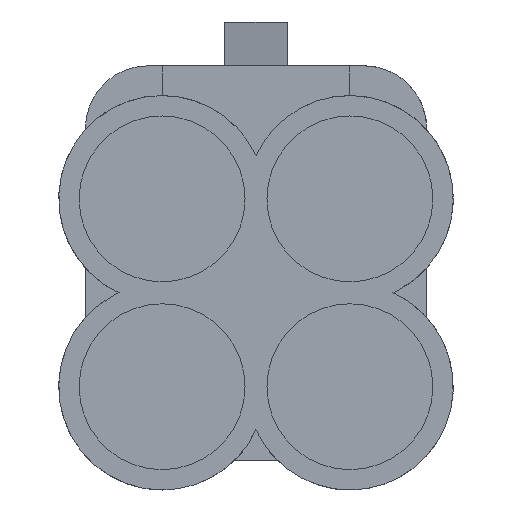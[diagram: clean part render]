
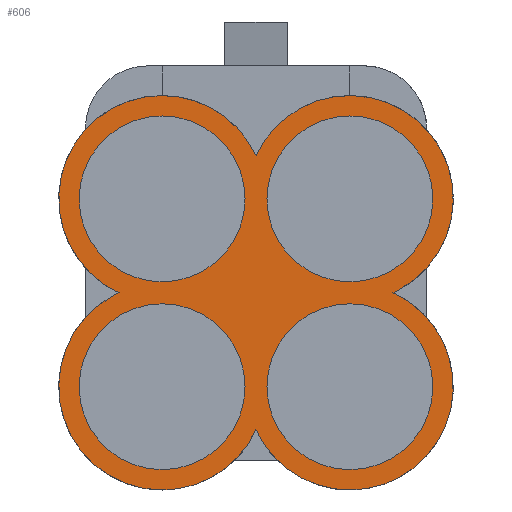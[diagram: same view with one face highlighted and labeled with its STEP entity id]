
A CAD part, left-side view. The second image highlights one B-rep face of the part: STEP entity #606.
In plain terms, the highlighted planar face has unit normal (-1, 0, 0).
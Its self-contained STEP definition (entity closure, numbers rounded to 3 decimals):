
#334=AXIS2_PLACEMENT_3D('Circle Axis2P3D',#332,#333,$) ;
#373=AXIS2_PLACEMENT_3D('Circle Axis2P3D',#371,#372,$) ;
#466=AXIS2_PLACEMENT_3D('Plane Axis2P3D',#463,#464,#465) ;
#470=AXIS2_PLACEMENT_3D('Circle Axis2P3D',#468,#469,$) ;
#479=AXIS2_PLACEMENT_3D('Circle Axis2P3D',#477,#478,$) ;
#486=AXIS2_PLACEMENT_3D('Circle Axis2P3D',#484,#485,$) ;
#493=AXIS2_PLACEMENT_3D('Circle Axis2P3D',#491,#492,$) ;
#500=AXIS2_PLACEMENT_3D('Circle Axis2P3D',#498,#499,$) ;
#507=AXIS2_PLACEMENT_3D('Circle Axis2P3D',#505,#506,$) ;
#512=AXIS2_PLACEMENT_3D('Circle Axis2P3D',#510,#511,$) ;
#519=AXIS2_PLACEMENT_3D('Circle Axis2P3D',#517,#518,$) ;
#536=AXIS2_PLACEMENT_3D('Circle Axis2P3D',#534,#535,$) ;
#545=AXIS2_PLACEMENT_3D('Circle Axis2P3D',#543,#544,$) ;
#554=AXIS2_PLACEMENT_3D('Circle Axis2P3D',#552,#553,$) ;
#563=AXIS2_PLACEMENT_3D('Circle Axis2P3D',#561,#562,$) ;
#572=AXIS2_PLACEMENT_3D('Circle Axis2P3D',#570,#571,$) ;
#581=AXIS2_PLACEMENT_3D('Circle Axis2P3D',#579,#580,$) ;
#590=AXIS2_PLACEMENT_3D('Circle Axis2P3D',#588,#589,$) ;
#599=AXIS2_PLACEMENT_3D('Circle Axis2P3D',#597,#598,$) ;
#332=CARTESIAN_POINT('Axis2P3D Location',(-23.,0.,-5.75)) ;
#336=CARTESIAN_POINT('Vertex',(-23.,-1.582,-8.646)) ;
#338=CARTESIAN_POINT('Vertex',(-23.,-1.375,-2.75)) ;
#371=CARTESIAN_POINT('Axis2P3D Location',(-23.,0.,-5.75)) ;
#375=CARTESIAN_POINT('Vertex',(-23.,3.,-7.125)) ;
#463=CARTESIAN_POINT('Axis2P3D Location',(-23.,0.,-9.05)) ;
#468=CARTESIAN_POINT('Axis2P3D Location',(-23.,0.,0.25)) ;
#472=CARTESIAN_POINT('Vertex',(-23.,1.582,3.146)) ;
#474=CARTESIAN_POINT('Vertex',(-23.,3.,1.625)) ;
#477=CARTESIAN_POINT('Axis2P3D Location',(-23.,6.,0.25)) ;
#481=CARTESIAN_POINT('Vertex',(-23.,7.582,3.146)) ;
#484=CARTESIAN_POINT('Axis2P3D Location',(-23.,6.,0.25)) ;
#488=CARTESIAN_POINT('Vertex',(-23.,7.375,-2.75)) ;
#491=CARTESIAN_POINT('Axis2P3D Location',(-23.,6.,-5.75)) ;
#495=CARTESIAN_POINT('Vertex',(-23.,7.582,-2.854)) ;
#498=CARTESIAN_POINT('Axis2P3D Location',(-23.,6.,-5.75)) ;
#502=CARTESIAN_POINT('Vertex',(-23.,4.418,-8.646)) ;
#505=CARTESIAN_POINT('Axis2P3D Location',(-23.,6.,-5.75)) ;
#510=CARTESIAN_POINT('Axis2P3D Location',(-23.,0.,0.25)) ;
#514=CARTESIAN_POINT('Vertex',(-23.,-1.582,-2.646)) ;
#517=CARTESIAN_POINT('Axis2P3D Location',(-23.,0.,0.25)) ;
#534=CARTESIAN_POINT('Axis2P3D Location',(-23.,0.,0.25)) ;
#538=CARTESIAN_POINT('Vertex',(-23.,2.65,0.25)) ;
#540=CARTESIAN_POINT('Vertex',(-23.,-2.65,0.25)) ;
#543=CARTESIAN_POINT('Axis2P3D Location',(-23.,0.,0.25)) ;
#552=CARTESIAN_POINT('Axis2P3D Location',(-23.,6.,0.25)) ;
#556=CARTESIAN_POINT('Vertex',(-23.,8.65,0.25)) ;
#558=CARTESIAN_POINT('Vertex',(-23.,3.35,0.25)) ;
#561=CARTESIAN_POINT('Axis2P3D Location',(-23.,6.,0.25)) ;
#570=CARTESIAN_POINT('Axis2P3D Location',(-23.,0.,-5.75)) ;
#574=CARTESIAN_POINT('Vertex',(-23.,2.65,-5.75)) ;
#576=CARTESIAN_POINT('Vertex',(-23.,-2.65,-5.75)) ;
#579=CARTESIAN_POINT('Axis2P3D Location',(-23.,0.,-5.75)) ;
#588=CARTESIAN_POINT('Axis2P3D Location',(-23.,6.,-5.75)) ;
#592=CARTESIAN_POINT('Vertex',(-23.,8.65,-5.75)) ;
#594=CARTESIAN_POINT('Vertex',(-23.,3.35,-5.75)) ;
#597=CARTESIAN_POINT('Axis2P3D Location',(-23.,6.,-5.75)) ;
#333=DIRECTION('Axis2P3D Direction',(-1.,0.,0.)) ;
#372=DIRECTION('Axis2P3D Direction',(-1.,0.,0.)) ;
#464=DIRECTION('Axis2P3D Direction',(-1.,0.,0.)) ;
#465=DIRECTION('Axis2P3D XDirection',(0.,1.,0.)) ;
#469=DIRECTION('Axis2P3D Direction',(-1.,0.,0.)) ;
#478=DIRECTION('Axis2P3D Direction',(-1.,0.,0.)) ;
#485=DIRECTION('Axis2P3D Direction',(-1.,0.,0.)) ;
#492=DIRECTION('Axis2P3D Direction',(-1.,0.,0.)) ;
#499=DIRECTION('Axis2P3D Direction',(-1.,0.,0.)) ;
#506=DIRECTION('Axis2P3D Direction',(-1.,0.,0.)) ;
#511=DIRECTION('Axis2P3D Direction',(-1.,0.,0.)) ;
#518=DIRECTION('Axis2P3D Direction',(-1.,0.,0.)) ;
#535=DIRECTION('Axis2P3D Direction',(-1.,0.,0.)) ;
#544=DIRECTION('Axis2P3D Direction',(-1.,0.,0.)) ;
#553=DIRECTION('Axis2P3D Direction',(-1.,0.,0.)) ;
#562=DIRECTION('Axis2P3D Direction',(-1.,0.,0.)) ;
#571=DIRECTION('Axis2P3D Direction',(-1.,0.,0.)) ;
#580=DIRECTION('Axis2P3D Direction',(-1.,0.,0.)) ;
#589=DIRECTION('Axis2P3D Direction',(-1.,0.,0.)) ;
#598=DIRECTION('Axis2P3D Direction',(-1.,0.,0.)) ;
#523=ORIENTED_EDGE('',*,*,#476,.T.) ;
#524=ORIENTED_EDGE('',*,*,#483,.T.) ;
#525=ORIENTED_EDGE('',*,*,#490,.T.) ;
#526=ORIENTED_EDGE('',*,*,#497,.T.) ;
#527=ORIENTED_EDGE('',*,*,#504,.T.) ;
#528=ORIENTED_EDGE('',*,*,#509,.T.) ;
#529=ORIENTED_EDGE('',*,*,#377,.T.) ;
#530=ORIENTED_EDGE('',*,*,#340,.T.) ;
#531=ORIENTED_EDGE('',*,*,#516,.T.) ;
#532=ORIENTED_EDGE('',*,*,#521,.T.) ;
#549=ORIENTED_EDGE('',*,*,#542,.F.) ;
#550=ORIENTED_EDGE('',*,*,#547,.F.) ;
#567=ORIENTED_EDGE('',*,*,#560,.F.) ;
#568=ORIENTED_EDGE('',*,*,#565,.F.) ;
#585=ORIENTED_EDGE('',*,*,#578,.F.) ;
#586=ORIENTED_EDGE('',*,*,#583,.F.) ;
#603=ORIENTED_EDGE('',*,*,#596,.F.) ;
#604=ORIENTED_EDGE('',*,*,#601,.F.) ;
#551=FACE_BOUND('',#548,.T.) ;
#569=FACE_BOUND('',#566,.T.) ;
#587=FACE_BOUND('',#584,.T.) ;
#605=FACE_BOUND('',#602,.T.) ;
#606=ADVANCED_FACE('\X2\FF8AFF9FFF70FF82\X0\ \X2\FF8EFF9EFF83FF9EFF68FF70\X0\',(#533,#551,#569,#587,#605),#467,.T.) ;
#335=CIRCLE('generated circle',#334,3.3) ;
#374=CIRCLE('generated circle',#373,3.3) ;
#471=CIRCLE('generated circle',#470,3.3) ;
#480=CIRCLE('generated circle',#479,3.3) ;
#487=CIRCLE('generated circle',#486,3.3) ;
#494=CIRCLE('generated circle',#493,3.3) ;
#501=CIRCLE('generated circle',#500,3.3) ;
#508=CIRCLE('generated circle',#507,3.3) ;
#513=CIRCLE('generated circle',#512,3.3) ;
#520=CIRCLE('generated circle',#519,3.3) ;
#537=CIRCLE('generated circle',#536,2.65) ;
#546=CIRCLE('generated circle',#545,2.65) ;
#555=CIRCLE('generated circle',#554,2.65) ;
#564=CIRCLE('generated circle',#563,2.65) ;
#573=CIRCLE('generated circle',#572,2.65) ;
#582=CIRCLE('generated circle',#581,2.65) ;
#591=CIRCLE('generated circle',#590,2.65) ;
#600=CIRCLE('generated circle',#599,2.65) ;
#340=EDGE_CURVE('',#337,#339,#335,.T.) ;
#377=EDGE_CURVE('',#376,#337,#374,.T.) ;
#476=EDGE_CURVE('',#473,#475,#471,.T.) ;
#483=EDGE_CURVE('',#475,#482,#480,.T.) ;
#490=EDGE_CURVE('',#482,#489,#487,.T.) ;
#497=EDGE_CURVE('',#489,#496,#494,.T.) ;
#504=EDGE_CURVE('',#496,#503,#501,.T.) ;
#509=EDGE_CURVE('',#503,#376,#508,.T.) ;
#516=EDGE_CURVE('',#339,#515,#513,.T.) ;
#521=EDGE_CURVE('',#515,#473,#520,.T.) ;
#542=EDGE_CURVE('',#539,#541,#537,.T.) ;
#547=EDGE_CURVE('',#541,#539,#546,.T.) ;
#560=EDGE_CURVE('',#557,#559,#555,.T.) ;
#565=EDGE_CURVE('',#559,#557,#564,.T.) ;
#578=EDGE_CURVE('',#575,#577,#573,.T.) ;
#583=EDGE_CURVE('',#577,#575,#582,.T.) ;
#596=EDGE_CURVE('',#593,#595,#591,.T.) ;
#601=EDGE_CURVE('',#595,#593,#600,.T.) ;
#522=EDGE_LOOP('',(#523,#524,#525,#526,#527,#528,#529,#530,#531,#532)) ;
#548=EDGE_LOOP('',(#549,#550)) ;
#566=EDGE_LOOP('',(#567,#568)) ;
#584=EDGE_LOOP('',(#585,#586)) ;
#602=EDGE_LOOP('',(#603,#604)) ;
#533=FACE_OUTER_BOUND('',#522,.T.) ;
#467=PLANE('',#466) ;
#337=VERTEX_POINT('',#336) ;
#339=VERTEX_POINT('',#338) ;
#376=VERTEX_POINT('',#375) ;
#473=VERTEX_POINT('',#472) ;
#475=VERTEX_POINT('',#474) ;
#482=VERTEX_POINT('',#481) ;
#489=VERTEX_POINT('',#488) ;
#496=VERTEX_POINT('',#495) ;
#503=VERTEX_POINT('',#502) ;
#515=VERTEX_POINT('',#514) ;
#539=VERTEX_POINT('',#538) ;
#541=VERTEX_POINT('',#540) ;
#557=VERTEX_POINT('',#556) ;
#559=VERTEX_POINT('',#558) ;
#575=VERTEX_POINT('',#574) ;
#577=VERTEX_POINT('',#576) ;
#593=VERTEX_POINT('',#592) ;
#595=VERTEX_POINT('',#594) ;
